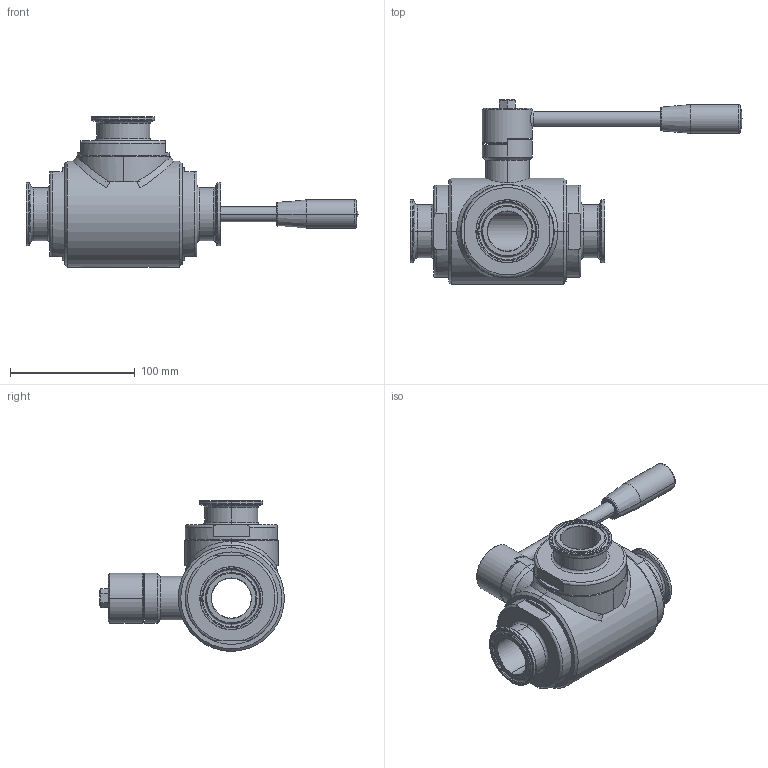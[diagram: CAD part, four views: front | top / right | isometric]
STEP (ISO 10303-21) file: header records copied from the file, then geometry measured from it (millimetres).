
FILE_DESCRIPTION((''),'2;1');
FILE_NAME('30013063010','2020-08-03T14:59:21',('alfio.taboni'),('CDM Tecnoconsulting'),'CREO PARAMETRIC BY PTC INC, 2020053','CREO PARAMETRIC BY PTC INC, 2020053','');
FILE_SCHEMA(());
Length unit declared in the file: millimetre
Products named in the file (1): 30013063010
Bounding box: 266 x 148 x 120.5 mm (x, y, z)
Surface area: 105070.5 mm2 (no closed solid volume)
Topology: 0 solids, 54 shells, 343 faces, 1560 edges, 1250 vertices
Faces by surface type: plane 94, cylinder 87, torus 66, cone 63, bspline 31, sphere 2
Entity records: 22887 total; most frequent: CARTESIAN_POINT 11271, ORIENTED_EDGE 2208, DIRECTION 2136, EDGE_CURVE 1550, VERTEX_POINT 1250, VECTOR 716, LINE 716, AXIS2_PLACEMENT_3D 710
